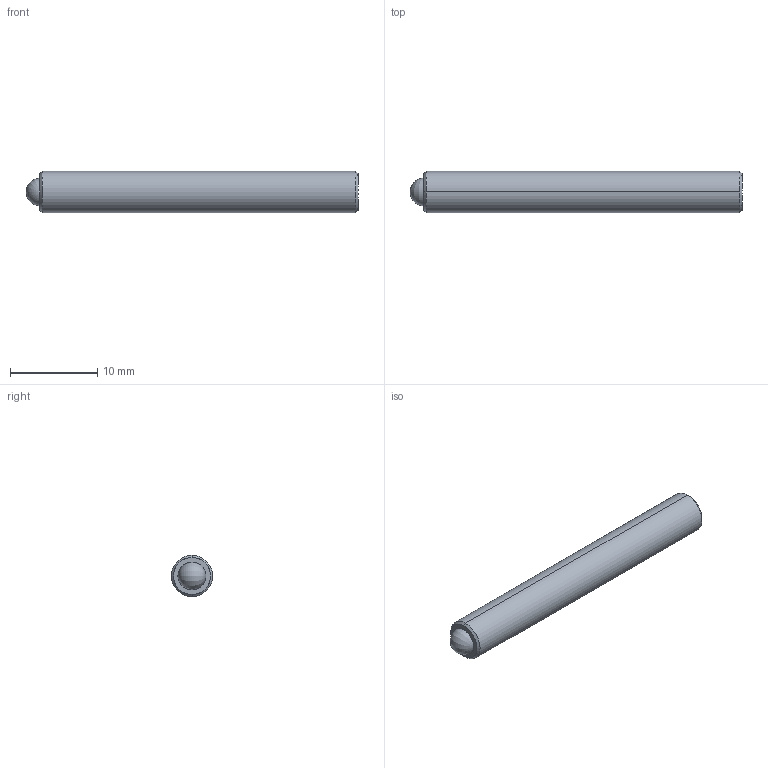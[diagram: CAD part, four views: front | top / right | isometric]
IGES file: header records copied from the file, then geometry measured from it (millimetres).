
Start section: SolidWorks IGES file using analytic representation for surfaces
Global section: file name: C:\Users\workpc\Desktop\KMA Solidworks\TS187-100 Series\TS187-100 High Vacuum\TS187-100-High Vacuum SLDPRT\TS187-100-1500-HV.IGS; native system: SolidWorks 2013; preprocessor: SolidWorks 2013; author: workpc; date: 130509.083040; units: inch
Bounding box: 38.1 x 4.75 x 4.75 mm (x, y, z)
Surface area: 639 mm2 (no closed solid volume)
Topology: 0 solids, 0 shells, 24 faces, 240 edges, 236 vertices
Faces by surface type: revolution 14, bspline 10
